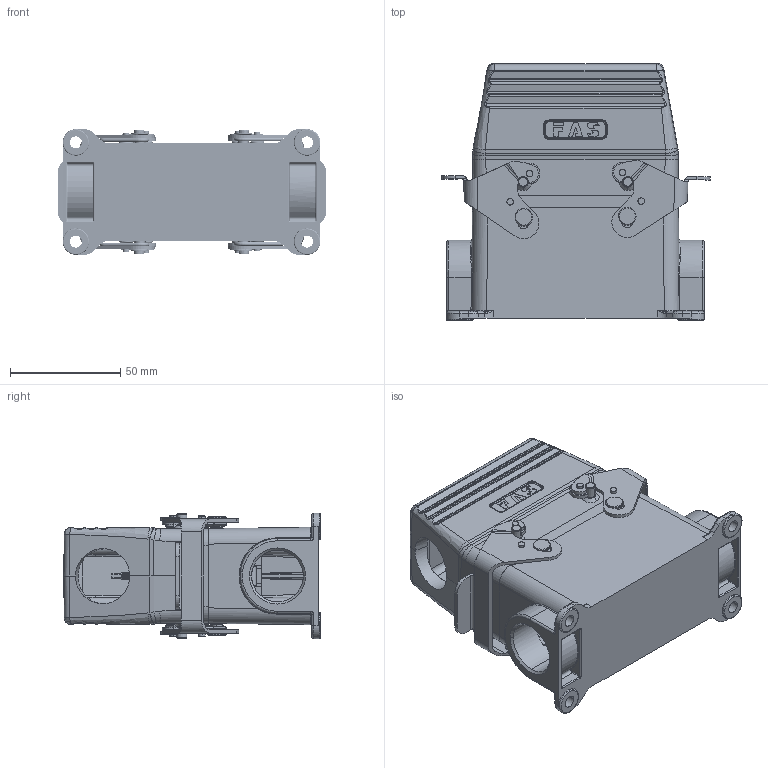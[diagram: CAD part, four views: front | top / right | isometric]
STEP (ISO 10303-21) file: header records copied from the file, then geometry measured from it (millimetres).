
FILE_DESCRIPTION (( 'STEP AP214' ), '1' );
FILE_NAME ('09116103225 HESH、16针、表面底座、侧出M25套件.STEP', '2024-04-28T02:49:10', ( 'L' ), ( '' ), 'SwSTEP 2.0', 'SolidWorks 2019', '' );
FILE_SCHEMA (( 'AUTOMOTIVE_DESIGN' ));
Length unit declared in the file: millimetre
Products named in the file (5): H16B-TS-M25.step; HESH-016-F.stp; H16B-SGR-M25.step; 09116103225 HESH、16针、表面底座、侧出M25套件; HESH-016-M.stp
Assembly tree (4 placements, depth 2):
  09116103225 HESH、16针、表面底座、侧出M25套件
    H16B-TS-M25.step
    HESH-016-M.stp
    HESH-016-F.stp
    H16B-SGR-M25.step
Bounding box: 121.89 x 116.6 x 57 mm (x, y, z)
Volume: 171297.4 mm3; surface area: 142580.7 mm2
Topology: 3 solids, 11 shells, 4194 faces, 10898 edges, 6895 vertices
Faces by surface type: plane 2037, cylinder 1054, cone 478, bspline 309, torus 234, sphere 82
Entity records: 160205 total; most frequent: CARTESIAN_POINT 47961, ORIENTED_EDGE 21600, DIRECTION 20062, EDGE_CURVE 10806, AXIS2_PLACEMENT_3D 6918, VERTEX_POINT 6891, LINE 6226, VECTOR 6226
